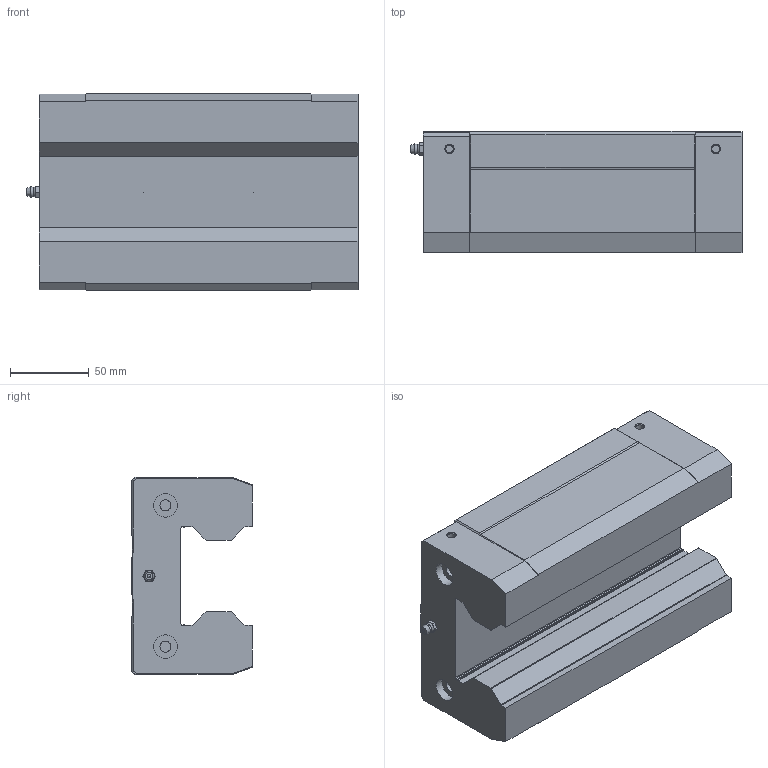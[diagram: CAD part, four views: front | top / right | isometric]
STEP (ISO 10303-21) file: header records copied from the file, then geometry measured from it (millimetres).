
FILE_DESCRIPTION(/* description */ ('STEP AP214'),/* implementation_level */ '2;1');
FILE_NAME(/* name */ 'ERG65P6VC1N0______CAD_NO_(A-MT61)',/* time_stamp */ '2026-05-18T11:25:52+02:00',/* author */ ('License CC BY-ND 4.0'),/* organization */ ('CADENAS'),/* preprocessor_version */ 'ST-DEVELOPER v20',/* originating_system */ 'PARTsolutions',/* authorisation */ ' ');
FILE_SCHEMA (('AUTOMOTIVE_DESIGN {1 0 10303 214 3 1 1}'));
Length unit declared in the file: millimetre
Products named in the file (3): ERG65P6VC1N0______CAD_NO_(A-MT61); ERG65V01 Slider; hsr_ftht_A-M6F_grease_nipple_joint
Assembly tree (2 placements, depth 2):
  ERG65P6VC1N0______CAD_NO_(A-MT61)
    ERG65V01 Slider
    hsr_ftht_A-M6F_grease_nipple_joint
Bounding box: 211.41 x 77 x 126 mm (x, y, z)
Volume: 1406696.8 mm3; surface area: 126783.8 mm2
Topology: 2 solids, 2 shells, 168 faces, 415 edges, 268 vertices
Faces by surface type: plane 95, cylinder 43, cone 27, sphere 2, torus 1
Full cylindrical faces by diameter (mm): 4.917 x6, 6 x1, 7 x4, 10.2 x2, 13.835 x6, 15 x4
Entity records: 4687 total; most frequent: CARTESIAN_POINT 855, DIRECTION 780, ORIENTED_EDGE 704, EDGE_CURVE 352, AXIS2_PLACEMENT_3D 281, VERTEX_POINT 258, FACE_BOUND 238, EDGE_LOOP 232
